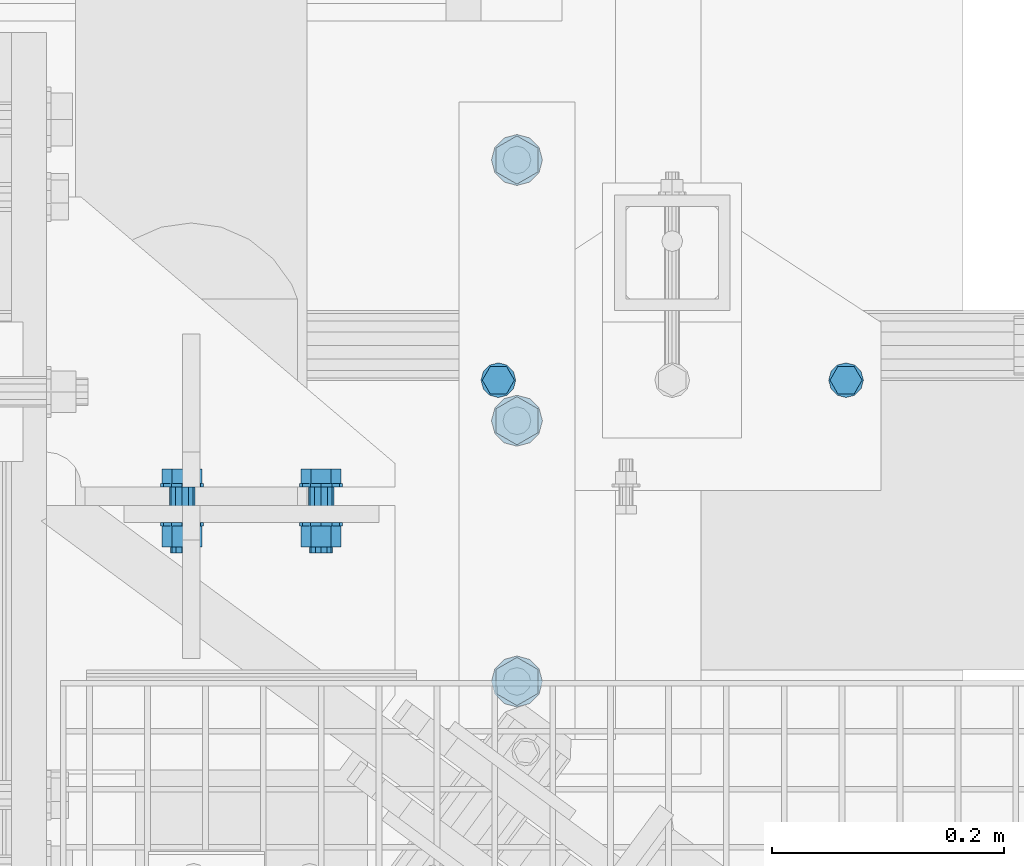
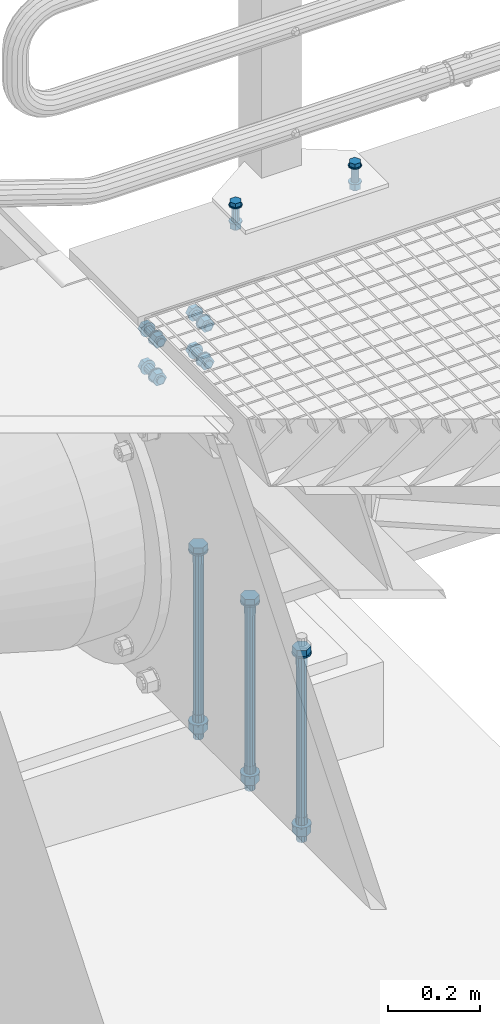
# One storey, part 35 of 1530: 3 mechanical fasteners.
"""IFC2X3 building model written with IfcOpenShell, lengths in millimetres."""

import ifcopenshell
import ifcopenshell.guid

model = None  # the IFC model being written
_history = None  # IfcOwnerHistory: only IFC2X3 demands one
_inside = {}  # id of a spatial element -> (the spatial element, [elements in it])
_under = {}  # id of a project, library or spatial element -> (it, [spatial elements below it])
_declared = {}  # id of a project -> (the project, [libraries it declares])
_typed = {}  # id of a type object -> (the type object, [elements of that type])
_made_of = {}  # id of a material, layer set ... -> (it, [elements and type objects made of it])


def new_model(schema):
    """Start an empty IFC model of exactly this schema.

    Asked for "IFC4X3", IfcOpenShell would pick the latest addendum, in which some entities
    have other attributes; the version numbers below select the first issue.
    IFC2X3 requires an IfcOwnerHistory on every rooted entity: one is made here for all.
    """
    global model, _history
    if schema == "IFC4X3":
        model = ifcopenshell.file(schema_version=(4, 3, 0, 0))
    else:
        model = ifcopenshell.file(schema=schema)
    _inside.clear()
    _under.clear()
    _declared.clear()
    _typed.clear()
    _made_of.clear()
    _history = None
    if model.schema == "IFC2X3":
        org = make("IfcOrganization", Name="unknown")
        user = make(
            "IfcPersonAndOrganization",
            ThePerson=make("IfcPerson", FamilyName="unknown"),
            TheOrganization=org,
        )
        app = make(
            "IfcApplication",
            ApplicationDeveloper=org,
            Version="unknown",
            ApplicationFullName="unknown",
            ApplicationIdentifier="unknown",
        )
        _history = make(
            "IfcOwnerHistory",
            OwningUser=user,
            OwningApplication=app,
            ChangeAction="ADDED",
            CreationDate=0,
        )
    return model


def make(cls, **values):
    """One entity of the class cls with the attributes given. An attribute that is None is left unset."""
    return model.create_entity(
        cls, **{name: value for name, value in values.items() if value is not None}
    )


def rooted(cls, **values):
    """An entity with a GlobalId (a new one), such as an element, a storey or a relation."""
    return make(cls, GlobalId=ifcopenshell.guid.new(), OwnerHistory=_history, **values)


def si_unit(unit_type, name, prefix=None):
    """IfcSIUnit, for example si_unit("LENGTHUNIT", "METRE", prefix="MILLI")."""
    return make("IfcSIUnit", UnitType=unit_type, Prefix=prefix, Name=name)


def assignment(units):
    """IfcUnitAssignment: the units of a project."""
    return None if units is None else make("IfcUnitAssignment", Units=units)


def point(xyz):
    """IfcCartesianPoint."""
    return None if xyz is None else make("IfcCartesianPoint", Coordinates=xyz)


def direction(xyz):
    """IfcDirection."""
    return None if xyz is None else make("IfcDirection", DirectionRatios=xyz)


def frame(location, z_axis=None, x_axis=None):
    """IfcAxis2Placement3D, a coordinate frame: its origin and axes. An axis left out is left unset."""
    return make(
        "IfcAxis2Placement3D",
        Location=point(location),
        Axis=direction(z_axis),
        RefDirection=direction(x_axis),
    )


def origin_with_axes():
    """The frame at (0, 0, 0) with the z axis (0, 0, 1) and the x axis (1, 0, 0) written out."""
    return frame((0.0, 0.0, 0.0), z_axis=(0.0, 0.0, 1.0), x_axis=(1.0, 0.0, 0.0))


def place(relative_to, where):
    """IfcLocalPlacement: puts the frame where relative to a parent placement (None: the world)."""
    return make(
        "IfcLocalPlacement", PlacementRelTo=relative_to, RelativePlacement=where
    )


def context(
    kind, dimensions, precision=None, world=None, true_north=None, identifier=None
):
    """IfcGeometricRepresentationContext, for example the 3D "Model" context."""
    return make(
        "IfcGeometricRepresentationContext",
        ContextIdentifier=identifier,
        ContextType=kind,
        CoordinateSpaceDimension=dimensions,
        Precision=precision,
        WorldCoordinateSystem=world,
        TrueNorth=true_north,
    )


def subcontext(parent, identifier, kind, view, scale=None):
    """IfcGeometricRepresentationSubContext, for example "Body" below "Model"."""
    return make(
        "IfcGeometricRepresentationSubContext",
        ContextIdentifier=identifier,
        ContextType=kind,
        ParentContext=parent,
        TargetScale=scale,
        TargetView=view,
    )


def project(units=None, contexts=None):
    """IfcProject with its units and contexts."""
    return rooted(
        "IfcProject",
        Name="project",
        RepresentationContexts=contexts,
        UnitsInContext=assignment(units),
    )


def spatial(cls, under=None, at=None, **own):
    """A site, building, storey or space (cls), placed at a placement, below another one or the project."""
    s = rooted(cls, ObjectPlacement=at, **own)
    if under is not None:
        _under.setdefault(under.id(), (under, []))[1].append(s)
    return s


def faces_of(points, faces, orient=None, outer=None):
    """IfcFace entities. A face is a list of loops; a loop is a list of indices into points, from 0.

    orient and outer hold one flag for each loop. By default every Orientation is true, the
    first loop of a face is its IfcFaceOuterBound and the others are IfcFaceBound.
    """
    made = []
    for i, loops in enumerate(faces):
        bounds = []
        for j, loop in enumerate(loops):
            is_outer = j == 0 if outer is None else outer[i][j]
            bounds.append(
                make(
                    "IfcFaceOuterBound" if is_outer else "IfcFaceBound",
                    Bound=make("IfcPolyLoop", Polygon=[points[k] for k in loop]),
                    Orientation=True if orient is None else orient[i][j],
                )
            )
        made.append(make("IfcFace", Bounds=bounds))
    return made


def faceted_brep(points, faces, orient=None, outer=None, voids=None):
    """IfcFacetedBrep: a solid bounded by flat faces; with voids (closed shells), ...WithVoids."""
    shared = [point(p) for p in points]
    hull = make("IfcClosedShell", CfsFaces=faces_of(shared, faces, orient, outer))
    if voids is None:
        return make("IfcFacetedBrep", Outer=hull)
    return make(
        "IfcFacetedBrepWithVoids",
        Outer=hull,
        Voids=[
            make(cls, CfsFaces=faces_of(shared, fs, o, b)) for cls, fs, o, b in voids
        ],
    )


def shape(context_of_items, identifier, shape_type, items):
    """IfcShapeRepresentation: the items that make up one representation, for example the "Body"."""
    return make(
        "IfcShapeRepresentation",
        ContextOfItems=context_of_items,
        RepresentationIdentifier=identifier,
        RepresentationType=shape_type,
        Items=items,
    )


def source(mapping_origin, context_of_items, identifier, shape_type, items):
    """IfcRepresentationMap: a shape defined once, which mapped items show again and again."""
    return make(
        "IfcRepresentationMap",
        MappingOrigin=mapping_origin,
        MappedRepresentation=shape(context_of_items, identifier, shape_type, items),
    )


def transform(
    local_origin,
    x_axis=None,
    y_axis=None,
    z_axis=None,
    scale=None,
    scale2=None,
    scale3=None,
    uniform=True,
):
    """IfcCartesianTransformationOperator3D, or its non-uniform kind. x_axis, y_axis, z_axis: its Axis1, 2, 3."""
    if uniform:
        return make(
            "IfcCartesianTransformationOperator3D",
            Axis1=direction(x_axis),
            Axis2=direction(y_axis),
            LocalOrigin=point(local_origin),
            Scale=scale,
            Axis3=direction(z_axis),
        )
    return make(
        "IfcCartesianTransformationOperator3DnonUniform",
        Axis1=direction(x_axis),
        Axis2=direction(y_axis),
        LocalOrigin=point(local_origin),
        Scale=scale,
        Axis3=direction(z_axis),
        Scale2=scale2,
        Scale3=scale3,
    )


def mapped(mapping_source, mapping_target):
    """IfcMappedItem: shows the shape of a source again, moved by a transform."""
    return make(
        "IfcMappedItem", MappingSource=mapping_source, MappingTarget=mapping_target
    )


def material(Name=None, Category=None):
    """IfcMaterial."""
    return make("IfcMaterial", Name=Name, Category=Category)


def made_of(thing, what):
    """Note that an element or type object is made of a material, layer set ...; save() writes the relation."""
    if what is not None:
        _made_of.setdefault(what.id(), (what, []))[1].append(thing)
    return thing


def type_object(cls, material=None, **own):
    """A type object (cls), such as IfcWallType, which elements share."""
    return made_of(rooted(cls, **own), material)


def element(
    cls,
    number,
    at=None,
    inside=None,
    cuts=None,
    type_object=None,
    material=None,
    context=None,
    identifier="Body",
    shape_type=None,
    held_by="IfcProductDefinitionShape",
    body=None,
    shapes=None,
    **own,
):
    """One element of the class cls, such as IfcWall. Its Tag is "e" and its number.

    at: its placement. inside: the storey or other place that contains it. cuts: it is an
    opening in that element (IfcRelVoidsElement). A single representation is given by context,
    identifier, shape_type and body (its items); several are given by shapes. held_by: the class
    of the entity that holds the representations. save() writes the other relations.
    """
    e = rooted(cls, Tag="e%d" % number, ObjectPlacement=at, **own)
    if body is not None:
        shapes = [shape(context, identifier, shape_type, body)]
    if shapes is not None:
        e.Representation = make(held_by, Representations=shapes)
    if inside is not None:
        _inside.setdefault(inside.id(), (inside, []))[1].append(e)
    if cuts is not None:
        rooted(
            "IfcRelVoidsElement", RelatingBuildingElement=cuts, RelatedOpeningElement=e
        )
    if type_object is not None:
        _typed.setdefault(type_object.id(), (type_object, []))[1].append(e)
    return made_of(e, material)


def aggregate(whole, parts):
    """IfcRelAggregates: a whole, such as a stair, and the parts it consists of."""
    return rooted("IfcRelAggregates", RelatingObject=whole, RelatedObjects=parts)


def save(model, path):
    """Write the relations noted so far, then the file.

    IfcRelAggregates (storeys below a building ...), IfcRelContainedInSpatialStructure (elements
    in a storey), IfcRelDefinesByType, IfcRelAssociatesMaterial and IfcRelDeclares: one each for
    every whole, place, type object, material and project.
    """
    for whole, parts in _under.values():
        aggregate(whole, parts)
    for where, things in _inside.values():
        rooted(
            "IfcRelContainedInSpatialStructure",
            RelatedElements=things,
            RelatingStructure=where,
        )
    for kind, things in _typed.values():
        rooted("IfcRelDefinesByType", RelatedObjects=things, RelatingType=kind)
    for what, things in _made_of.values():
        rooted("IfcRelAssociatesMaterial", RelatedObjects=things, RelatingMaterial=what)
    for by, libraries in _declared.values():
        rooted("IfcRelDeclares", RelatingContext=by, RelatedDefinitions=libraries)
    model.write(path)


model = new_model("IFC2X3")

# Units and contexts
model_context = context("Model", 3, precision=1e-05, world=origin_with_axes())
body_context = subcontext(model_context, "Body", "Model", "MODEL_VIEW")
ifc_project = project(units=[si_unit("LENGTHUNIT", "METRE", prefix="MILLI"), si_unit("AREAUNIT", "SQUARE_METRE"), si_unit("VOLUMEUNIT", "CUBIC_METRE"), si_unit("MASSUNIT", "GRAM", prefix="KILO"), si_unit("TIMEUNIT", "SECOND"), si_unit("PLANEANGLEUNIT", "RADIAN"), si_unit("SOLIDANGLEUNIT", "STERADIAN"), si_unit("THERMODYNAMICTEMPERATUREUNIT", "DEGREE_CELSIUS"), si_unit("LUMINOUSINTENSITYUNIT", "LUMEN")], contexts=[model_context])

# Site, building, storey
site_placement = place(None, origin_with_axes())
site = spatial("IfcSite", under=ifc_project, at=site_placement, Name="Brattvåg", CompositionType="ELEMENT")
building_placement = place(site_placement, origin_with_axes())
building = spatial("IfcBuilding", under=site, at=building_placement, Name="Undefined", CompositionType="ELEMENT")
storey_placement = place(building_placement, origin_with_axes())
storey = spatial("IfcBuildingStorey", under=building, at=storey_placement, Name="Undefined", CompositionType="ELEMENT", Elevation=0.0)

# Mechanical fasteners
ifc_material = material(Name="8")
mechanical_fastener_type = type_object("IfcMechanicalFastenerType", Name="Bolt assembly")
shared_shape_1 = source(origin_with_axes(), body_context, "Body", "Brep", [
    faceted_brep([(20.7846096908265, -19.0, 0.0), (10.3923048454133, -19.0, 18.0), (-10.3923048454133, -19.0, 18.0), (-20.7846096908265, -19.0, 2.54538057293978e-15), (-10.3923048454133, -19.0, -18.0), (10.3923048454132, -19.0, -18.0), (10.3923048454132, -4.0, -18.0), (-10.3923048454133, -4.0, -18.0), (-20.7846096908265, -4.0, 2.54538057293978e-15), (-10.3923048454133, -4.0, 18.0), (10.3923048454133, -4.0, 18.0), (20.7846096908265, -4.0, 0.0), (12.0, -4.0, 0.0), (10.3923048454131, -4.0, 6.00000000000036), (5.99999999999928, -4.0, 10.3923048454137), (-1.24360317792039e-12, -4.0, 12.0), (-6.00000000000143, -4.0, 10.3923048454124), (-10.3923048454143, -4.0, 5.99999999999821), (-12.0, -4.0, -2.48720635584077e-12), (-10.3923048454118, -4.0, -6.00000000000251), (-5.99999999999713, -4.0, -10.3923048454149), (3.71748685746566e-12, -4.0, -12.0), (6.00000000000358, -4.0, -10.3923048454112), (10.3923048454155, -4.0, -5.99999999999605), (10.3923048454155, 496.0, -5.99999999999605), (6.00000000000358, 496.0, -10.3923048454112), (3.71748685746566e-12, 496.0, -12.0), (-5.99999999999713, 496.0, -10.3923048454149), (-10.3923048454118, 496.0, -6.00000000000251), (-12.0, 496.0, -2.48720635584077e-12), (-10.3923048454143, 496.0, 5.99999999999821), (-6.00000000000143, 496.0, 10.3923048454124), (-1.24360317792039e-12, 496.0, 12.0), (5.99999999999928, 496.0, 10.3923048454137), (10.3923048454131, 496.0, 6.00000000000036), (12.0, 496.0, 0.0), (22.0, -4.0, 0.0), (19.0525588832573, -4.0, 11.0000000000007), (10.9999999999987, -4.0, 19.0525588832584), (-2.27993915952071e-12, -4.0, 22.0), (-11.0000000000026, -4.0, 19.0525588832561), (-19.0525588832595, -4.0, 10.9999999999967), (-22.0, -4.0, -4.55987831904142e-12), (-19.052558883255, -4.0, -11.0000000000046), (-10.9999999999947, -4.0, -19.0525588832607), (6.81539257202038e-12, -4.0, -22.0), (11.0000000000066, -4.0, -19.0525588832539), (19.0525588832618, -4.0, -10.9999999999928), (19.0525588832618, 0.0, -10.9999999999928), (11.0000000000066, 0.0, -19.0525588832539), (6.81539257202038e-12, 0.0, -22.0), (-10.9999999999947, 0.0, -19.0525588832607), (-19.052558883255, 0.0, -11.0000000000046), (-22.0, 0.0, -4.55987831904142e-12), (-19.0525588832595, 0.0, 10.9999999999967), (-11.0000000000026, 0.0, 19.0525588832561), (-2.27993915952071e-12, 0.0, 22.0), (10.9999999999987, 0.0, 19.0525588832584), (19.0525588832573, 0.0, 11.0000000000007), (22.0, 0.0, 0.0), (22.0, 450.00030517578, 0.0), (19.0525588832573, 450.00030517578, 11.0000000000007), (10.9999999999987, 450.00030517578, 19.0525588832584), (-2.27993915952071e-12, 450.00030517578, 22.0), (-11.0000000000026, 450.00030517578, 19.0525588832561), (-19.0525588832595, 450.00030517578, 10.9999999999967), (-22.0, 450.00030517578, -4.55987831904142e-12), (-19.052558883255, 450.00030517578, -11.0000000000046), (-10.9999999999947, 450.00030517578, -19.0525588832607), (6.81539257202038e-12, 450.00030517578, -22.0), (11.0000000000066, 450.00030517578, -19.0525588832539), (19.0525588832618, 450.00030517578, -10.9999999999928), (19.0525588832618, 454.00030517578, -10.9999999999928), (11.0000000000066, 454.00030517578, -19.0525588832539), (6.81539257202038e-12, 454.00030517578, -22.0), (-10.9999999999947, 454.00030517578, -19.0525588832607), (-19.052558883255, 454.00030517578, -11.0000000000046), (-22.0, 454.00030517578, -4.55987831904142e-12), (-19.0525588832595, 454.00030517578, 10.9999999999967), (-11.0000000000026, 454.00030517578, 19.0525588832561), (-2.27993915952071e-12, 454.00030517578, 22.0), (10.9999999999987, 454.00030517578, 19.0525588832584), (19.0525588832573, 454.00030517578, 11.0000000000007), (22.0, 454.00030517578, 0.0), (20.7846096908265, 454.00030517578, 0.0), (10.3923048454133, 454.00030517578, 18.0), (-10.3923048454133, 454.00030517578, 18.0), (-20.7846096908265, 454.00030517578, 2.54538057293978e-15), (-10.3923048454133, 454.00030517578, -18.0), (10.3923048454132, 454.00030517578, -18.0), (10.3923048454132, 475.50030517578, -18.0), (-10.3923048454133, 475.50030517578, -18.0), (-20.7846096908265, 475.50030517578, 2.54538057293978e-15), (-10.3923048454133, 475.50030517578, 18.0), (10.3923048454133, 475.50030517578, 18.0), (20.7846096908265, 475.50030517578, 0.0)], [[[0, 1, 2, 3, 4, 5]], [[6, 7, 8, 9, 10, 11]], [[0, 11, 10, 1]], [[1, 10, 9, 2]], [[2, 9, 8, 3]], [[3, 8, 7, 4]], [[4, 7, 6, 5]], [[5, 6, 11, 0]], [[12, 13, 14, 15, 16, 17, 18, 19, 20, 21, 22, 23]], [[24, 25, 26, 27, 28, 29, 30, 31, 32, 33, 34, 35]], [[12, 35, 34, 13]], [[13, 34, 33, 14]], [[14, 33, 32, 15]], [[15, 32, 31, 16]], [[16, 31, 30, 17]], [[17, 30, 29, 18]], [[18, 29, 28, 19]], [[19, 28, 27, 20]], [[20, 27, 26, 21]], [[21, 26, 25, 22]], [[22, 25, 24, 23]], [[23, 24, 35, 12]], [[36, 37, 38, 39, 40, 41, 42, 43, 44, 45, 46, 47]], [[48, 49, 50, 51, 52, 53, 54, 55, 56, 57, 58, 59]], [[36, 59, 58, 37]], [[37, 58, 57, 38]], [[38, 57, 56, 39]], [[39, 56, 55, 40]], [[40, 55, 54, 41]], [[41, 54, 53, 42]], [[42, 53, 52, 43]], [[43, 52, 51, 44]], [[44, 51, 50, 45]], [[45, 50, 49, 46]], [[46, 49, 48, 47]], [[47, 48, 59, 36]], [[60, 61, 62, 63, 64, 65, 66, 67, 68, 69, 70, 71]], [[72, 73, 74, 75, 76, 77, 78, 79, 80, 81, 82, 83]], [[60, 83, 82, 61]], [[61, 82, 81, 62]], [[62, 81, 80, 63]], [[63, 80, 79, 64]], [[64, 79, 78, 65]], [[65, 78, 77, 66]], [[66, 77, 76, 67]], [[67, 76, 75, 68]], [[68, 75, 74, 69]], [[69, 74, 73, 70]], [[70, 73, 72, 71]], [[71, 72, 83, 60]], [[84, 85, 86, 87, 88, 89]], [[90, 91, 92, 93, 94, 95]], [[84, 95, 94, 85]], [[85, 94, 93, 86]], [[86, 93, 92, 87]], [[87, 92, 91, 88]], [[88, 91, 90, 89]], [[89, 90, 95, 84]]]),
    faceted_brep([(13.0, 0.0999999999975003, 0.0), (11.2583302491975, 0.0999999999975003, 6.50000000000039), (6.49999999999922, 0.0999999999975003, 11.2583302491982), (-1.34723677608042e-12, 0.0999999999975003, 13.0), (-6.50000000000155, 0.0999999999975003, 11.2583302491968), (-11.2583302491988, 0.0999999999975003, 6.49999999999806), (-13.0, 0.0999999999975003, -2.69447355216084e-12), (-11.2583302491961, 0.0999999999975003, -6.50000000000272), (-6.4999999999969, 0.0999999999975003, -11.2583302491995), (4.02727742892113e-12, 0.0999999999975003, -13.0), (6.50000000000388, 0.0999999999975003, -11.2583302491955), (11.2583302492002, 0.0999999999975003, -6.49999999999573), (11.2583302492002, 30.1, -6.49999999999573), (6.50000000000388, 30.1, -11.2583302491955), (4.02727742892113e-12, 30.1, -13.0), (-6.4999999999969, 30.1, -11.2583302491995), (-11.2583302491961, 30.1, -6.50000000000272), (-13.0, 30.1, -2.69447355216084e-12), (-11.2583302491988, 30.1, 6.49999999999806), (-6.50000000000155, 30.1, 11.2583302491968), (-1.34723677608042e-12, 30.1, 13.0), (6.49999999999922, 30.1, 11.2583302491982), (11.2583302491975, 30.1, 6.50000000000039), (13.0, 30.1, 0.0), (13.0, 429.90030517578, 0.0), (11.2583302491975, 429.90030517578, 6.50000000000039), (6.49999999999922, 429.90030517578, 11.2583302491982), (-1.34723677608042e-12, 429.90030517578, 13.0), (-6.50000000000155, 429.90030517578, 11.2583302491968), (-11.2583302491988, 429.90030517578, 6.49999999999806), (-13.0, 429.90030517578, -2.69447355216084e-12), (-11.2583302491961, 429.90030517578, -6.50000000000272), (-6.4999999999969, 429.90030517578, -11.2583302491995), (4.02727742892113e-12, 429.90030517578, -13.0), (6.50000000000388, 429.90030517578, -11.2583302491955), (11.2583302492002, 429.90030517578, -6.49999999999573), (11.2583302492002, 450.00030517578, -6.49999999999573), (6.50000000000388, 450.00030517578, -11.2583302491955), (4.02727742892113e-12, 450.00030517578, -13.0), (-6.4999999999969, 450.00030517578, -11.2583302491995), (-11.2583302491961, 450.00030517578, -6.50000000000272), (-13.0, 450.00030517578, -2.69447355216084e-12), (-11.2583302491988, 450.00030517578, 6.49999999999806), (-6.50000000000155, 450.00030517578, 11.2583302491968), (-1.34723677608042e-12, 450.00030517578, 13.0), (6.49999999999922, 450.00030517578, 11.2583302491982), (11.2583302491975, 450.00030517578, 6.50000000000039), (13.0, 450.00030517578, 0.0)], [[[0, 1, 2, 3, 4, 5, 6, 7, 8, 9, 10, 11]], [[12, 13, 14, 15, 16, 17, 18, 19, 20, 21, 22, 23]], [[0, 23, 22, 1]], [[1, 22, 21, 2]], [[2, 21, 20, 3]], [[3, 20, 19, 4]], [[4, 19, 18, 5]], [[5, 18, 17, 6]], [[6, 17, 16, 7]], [[7, 16, 15, 8]], [[8, 15, 14, 9]], [[9, 14, 13, 10]], [[10, 13, 12, 11]], [[11, 12, 23, 0]], [[24, 25, 26, 27, 28, 29, 30, 31, 32, 33, 34, 35]], [[36, 37, 38, 39, 40, 41, 42, 43, 44, 45, 46, 47]], [[24, 47, 46, 25]], [[25, 46, 45, 26]], [[26, 45, 44, 27]], [[27, 44, 43, 28]], [[28, 43, 42, 29]], [[29, 42, 41, 30]], [[30, 41, 40, 31]], [[31, 40, 39, 32]], [[32, 39, 38, 33]], [[33, 38, 37, 34]], [[34, 37, 36, 35]], [[35, 36, 47, 24]]]),
])
mechanical_fastener_1_placement = place(storey_placement, frame((416.009799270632, 8839.99881744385, -1028.00001144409), z_axis=(-1.0, 1.99999855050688e-09, 0.0), x_axis=(0.0, 1.0, 0.0)))
element("IfcMechanicalFastener", 1, at=mechanical_fastener_1_placement, inside=storey, type_object=mechanical_fastener_type, material=ifc_material, Name="Bolt assembly", NominalDiameter=24.0, NominalLength=500.0, context=body_context, shape_type="MappedRepresentation", body=[
    mapped(shared_shape_1, transform((0.0, 0.0, 0.0))),
    mapped(shared_shape_1, transform((225.0, 0.0, 0.0))),
    mapped(shared_shape_1, transform((450.0, 0.0, 0.0))),
])
shared_shape_2 = source(origin_with_axes(), body_context, "Body", "Brep", [
    faceted_brep([(13.856406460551, -13.0, 0.0), (6.92820323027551, -13.0, 12.0), (-6.92820323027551, -13.0, 12.0), (-13.856406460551, -13.0, 1.69692038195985e-15), (-6.92820323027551, -13.0, -12.0), (6.9282032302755, -13.0, -12.0), (6.9282032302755, -3.0, -12.0), (-6.92820323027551, -3.0, -12.0), (-13.856406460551, -3.0, 1.69692038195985e-15), (-6.92820323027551, -3.0, 12.0), (6.92820323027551, -3.0, 12.0), (13.856406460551, -3.0, 0.0), (8.0, -3.0, 0.0), (6.92820323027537, -3.0, 4.00000000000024), (3.99999999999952, -3.0, 6.92820323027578), (-8.29068785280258e-13, -3.0, 8.0), (-4.00000000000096, -3.0, 6.92820323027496), (-6.9282032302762, -3.0, 3.99999999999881), (-8.0, -3.0, -1.65813757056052e-12), (-6.92820323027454, -3.0, -4.00000000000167), (-3.99999999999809, -3.0, -6.92820323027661), (2.47832457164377e-12, -3.0, -8.0), (4.00000000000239, -3.0, -6.92820323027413), (6.92820323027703, -3.0, -3.99999999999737), (6.92820323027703, 62.0000000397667, -3.99999999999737), (4.00000000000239, 62.0000000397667, -6.92820323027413), (2.47832457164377e-12, 62.0000000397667, -8.0), (-3.99999999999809, 62.0000000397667, -6.92820323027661), (-6.92820323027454, 62.0000000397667, -4.00000000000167), (-8.0, 62.0000000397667, -1.65813757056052e-12), (-6.9282032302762, 62.0000000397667, 3.99999999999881), (-4.00000000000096, 62.0000000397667, 6.92820323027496), (-8.29068785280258e-13, 62.0000000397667, 8.0), (3.99999999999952, 62.0000000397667, 6.92820323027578), (6.92820323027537, 62.0000000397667, 4.00000000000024), (8.0, 62.0000000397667, 0.0), (15.0, -3.0, 0.0), (12.9903810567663, -3.0, 7.50000000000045), (7.4999999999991, -3.0, 12.9903810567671), (-1.55450397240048e-12, -3.0, 15.0), (-7.50000000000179, -3.0, 12.9903810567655), (-12.9903810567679, -3.0, 7.49999999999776), (-15.0, -3.0, -3.10900794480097e-12), (-12.9903810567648, -3.0, -7.50000000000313), (-7.49999999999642, -3.0, -12.9903810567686), (4.64685857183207e-12, -3.0, -15.0), (7.50000000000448, -3.0, -12.990381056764), (12.9903810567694, -3.0, -7.49999999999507), (12.9903810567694, 0.0, -7.49999999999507), (7.50000000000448, 0.0, -12.990381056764), (0.0, 0.0, -15.0), (-7.49999999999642, 0.0, -12.9903810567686), (-12.9903810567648, 0.0, -7.50000000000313), (-15.0, 0.0, -3.10900794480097e-12), (-12.9903810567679, 0.0, 7.49999999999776), (-7.50000000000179, 0.0, 12.9903810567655), (0.0, 0.0, 15.0), (7.4999999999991, 0.0, 12.9903810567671), (12.9903810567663, 0.0, 7.50000000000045), (15.0, 0.0, 0.0), (15.0, 39.9997390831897, 0.0), (12.9903810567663, 39.9997390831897, 7.50000000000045), (7.4999999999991, 39.9997390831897, 12.9903810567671), (-1.55450397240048e-12, 39.9997390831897, 15.0), (-7.50000000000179, 39.9997390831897, 12.9903810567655), (-12.9903810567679, 39.9997390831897, 7.49999999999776), (-15.0, 39.9997390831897, -3.10900794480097e-12), (-12.9903810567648, 39.9997390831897, -7.50000000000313), (-7.49999999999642, 39.9997390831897, -12.9903810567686), (4.64685857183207e-12, 39.9997390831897, -15.0), (7.50000000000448, 39.9997390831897, -12.990381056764), (12.9903810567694, 39.9997390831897, -7.49999999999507), (12.9903810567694, 42.9997390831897, -7.49999999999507), (7.50000000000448, 42.9997390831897, -12.990381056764), (4.64685857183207e-12, 42.9997390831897, -15.0), (-7.49999999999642, 42.9997390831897, -12.9903810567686), (-12.9903810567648, 42.9997390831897, -7.50000000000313), (-15.0, 42.9997390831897, -3.10900794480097e-12), (-12.9903810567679, 42.9997390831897, 7.49999999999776), (-7.50000000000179, 42.9997390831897, 12.9903810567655), (-1.55450397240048e-12, 42.9997390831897, 15.0), (7.4999999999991, 42.9997390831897, 12.9903810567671), (12.9903810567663, 42.9997390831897, 7.50000000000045), (15.0, 42.9997390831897, 0.0), (13.856406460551, 42.9997390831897, 0.0), (6.92820323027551, 42.9997390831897, 12.0), (-6.92820323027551, 42.9997390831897, 12.0), (-13.856406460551, 42.9997390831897, 1.69692038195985e-15), (-6.92820323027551, 42.9997390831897, -12.0), (6.9282032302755, 42.9997390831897, -12.0), (6.9282032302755, 57.7997392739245, -12.0), (-6.92820323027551, 57.7997392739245, -12.0), (-13.856406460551, 57.7997392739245, 1.69692038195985e-15), (-6.92820323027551, 57.7997392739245, 12.0), (6.92820323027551, 57.7997392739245, 12.0), (13.856406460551, 57.7997392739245, 0.0)], [[[0, 1, 2, 3, 4, 5]], [[6, 7, 8, 9, 10, 11]], [[0, 11, 10, 1]], [[1, 10, 9, 2]], [[2, 9, 8, 3]], [[3, 8, 7, 4]], [[4, 7, 6, 5]], [[5, 6, 11, 0]], [[12, 13, 14, 15, 16, 17, 18, 19, 20, 21, 22, 23]], [[24, 25, 26, 27, 28, 29, 30, 31, 32, 33, 34, 35]], [[12, 35, 34, 13]], [[13, 34, 33, 14]], [[14, 33, 32, 15]], [[15, 32, 31, 16]], [[16, 31, 30, 17]], [[17, 30, 29, 18]], [[18, 29, 28, 19]], [[19, 28, 27, 20]], [[20, 27, 26, 21]], [[21, 26, 25, 22]], [[22, 25, 24, 23]], [[23, 24, 35, 12]], [[36, 37, 38, 39, 40, 41, 42, 43, 44, 45, 46, 47]], [[48, 49, 50, 51, 52, 53, 54, 55, 56, 57, 58, 59]], [[36, 59, 58, 37]], [[37, 58, 57, 38]], [[38, 57, 56, 39]], [[39, 56, 55, 40]], [[40, 55, 54, 41]], [[41, 54, 53, 42]], [[42, 53, 52, 43]], [[43, 52, 51, 44]], [[44, 51, 50, 45]], [[45, 50, 49, 46]], [[46, 49, 48, 47]], [[47, 48, 59, 36]], [[60, 61, 62, 63, 64, 65, 66, 67, 68, 69, 70, 71]], [[72, 73, 74, 75, 76, 77, 78, 79, 80, 81, 82, 83]], [[60, 83, 82, 61]], [[61, 82, 81, 62]], [[62, 81, 80, 63]], [[63, 80, 79, 64]], [[64, 79, 78, 65]], [[65, 78, 77, 66]], [[66, 77, 76, 67]], [[67, 76, 75, 68]], [[68, 75, 74, 69]], [[69, 74, 73, 70]], [[70, 73, 72, 71]], [[71, 72, 83, 60]], [[84, 85, 86, 87, 88, 89]], [[90, 91, 92, 93, 94, 95]], [[84, 95, 94, 85]], [[85, 94, 93, 86]], [[86, 93, 92, 87]], [[87, 92, 91, 88]], [[88, 91, 90, 89]], [[89, 90, 95, 84]]]),
    faceted_brep([(9.0, 0.1, 0.0), (7.79422863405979, 0.1, 4.50000000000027), (4.49999999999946, 0.1, 7.79422863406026), (-9.3270238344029e-13, 0.1, 9.0), (-4.50000000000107, 0.1, 7.79422863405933), (-7.79422863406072, 0.1, 4.49999999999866), (-9.0, 0.1, -1.86540476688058e-12), (-7.79422863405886, 0.1, -4.50000000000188), (-4.49999999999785, 0.1, -7.79422863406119), (2.78811514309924e-12, 0.1, -9.0), (4.50000000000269, 0.1, -7.7942286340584), (7.79422863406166, 0.1, -4.49999999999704), (7.79422863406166, 10.1, -4.49999999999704), (4.50000000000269, 10.1, -7.7942286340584), (2.78811514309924e-12, 10.1, -9.0), (-4.49999999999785, 10.1, -7.79422863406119), (-7.79422863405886, 10.1, -4.50000000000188), (-9.0, 10.1, -1.86540476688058e-12), (-7.79422863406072, 10.1, 4.49999999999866), (-4.50000000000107, 10.1, 7.79422863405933), (-9.3270238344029e-13, 10.1, 9.0), (4.49999999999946, 10.1, 7.79422863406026), (7.79422863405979, 10.1, 4.50000000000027), (9.0, 10.1, 0.0), (9.0, 9.8997390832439, 0.0), (7.79422863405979, 9.8997390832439, 4.50000000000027), (4.49999999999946, 9.8997390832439, 7.79422863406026), (-9.3270238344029e-13, 9.8997390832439, 9.0), (-4.50000000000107, 9.8997390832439, 7.79422863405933), (-7.79422863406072, 9.8997390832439, 4.49999999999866), (-9.0, 9.8997390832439, -1.86540476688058e-12), (-7.79422863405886, 9.8997390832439, -4.50000000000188), (-4.49999999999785, 9.8997390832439, -7.79422863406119), (2.78811514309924e-12, 9.8997390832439, -9.0), (4.50000000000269, 9.8997390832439, -7.7942286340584), (7.79422863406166, 9.8997390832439, -4.49999999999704), (7.79422863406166, 39.9997390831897, -4.49999999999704), (4.50000000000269, 39.9997390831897, -7.7942286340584), (2.78811514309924e-12, 39.9997390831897, -9.0), (-4.49999999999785, 39.9997390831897, -7.79422863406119), (-7.79422863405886, 39.9997390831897, -4.50000000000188), (-9.0, 39.9997390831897, -1.86540476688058e-12), (-7.79422863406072, 39.9997390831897, 4.49999999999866), (-4.50000000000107, 39.9997390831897, 7.79422863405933), (-9.3270238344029e-13, 39.9997390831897, 9.0), (4.49999999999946, 39.9997390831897, 7.79422863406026), (7.79422863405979, 39.9997390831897, 4.50000000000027), (9.0, 39.9997390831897, 0.0)], [[[0, 1, 2, 3, 4, 5, 6, 7, 8, 9, 10, 11]], [[12, 13, 14, 15, 16, 17, 18, 19, 20, 21, 22, 23]], [[0, 23, 22, 1]], [[1, 22, 21, 2]], [[2, 21, 20, 3]], [[3, 20, 19, 4]], [[4, 19, 18, 5]], [[5, 18, 17, 6]], [[6, 17, 16, 7]], [[7, 16, 15, 8]], [[8, 15, 14, 9]], [[9, 14, 13, 10]], [[10, 13, 12, 11]], [[11, 12, 23, 0]], [[24, 25, 26, 27, 28, 29, 30, 31, 32, 33, 34, 35]], [[36, 37, 38, 39, 40, 41, 42, 43, 44, 45, 46, 47]], [[24, 47, 46, 25]], [[25, 46, 45, 26]], [[26, 45, 44, 27]], [[27, 44, 43, 28]], [[28, 43, 42, 29]], [[29, 42, 41, 30]], [[30, 41, 40, 31]], [[31, 40, 39, 32]], [[32, 39, 38, 33]], [[33, 38, 37, 34]], [[34, 37, 36, 35]], [[35, 36, 47, 24]]]),
])
mechanical_fastener_2_placement = place(storey_placement, frame((400.000808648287, 9099.99960715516, 9.99973908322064), z_axis=(0.0, 1.0, 0.0), x_axis=(1.0, 0.0, 0.0)))
element("IfcMechanicalFastener", 2, at=mechanical_fastener_2_placement, inside=storey, type_object=mechanical_fastener_type, material=ifc_material, Name="Bolt assembly", NominalDiameter=16.0, NominalLength=65.0, context=body_context, shape_type="MappedRepresentation", body=[
    mapped(shared_shape_2, transform((0.0, 0.0, 0.0))),
    mapped(shared_shape_2, transform((300.0, 0.0, 0.0))),
])
shared_shape_3 = source(origin_with_axes(), body_context, "Body", "Brep", [
    faceted_brep([(17.3205080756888, -31.4985046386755, 0.0), (8.66025403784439, -31.4985046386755, 15.0), (-8.66025403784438, -31.4985046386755, 15.0), (-17.3205080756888, -31.4985046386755, 2.12115047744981e-15), (-8.66025403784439, -31.4985046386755, -15.0), (8.66025403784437, -31.4985046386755, -15.0), (8.66025403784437, -18.9985046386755, -15.0), (-8.66025403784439, -18.9985046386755, -15.0), (-17.3205080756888, -18.9985046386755, 2.12115047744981e-15), (-8.66025403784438, -18.9985046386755, 15.0), (8.66025403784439, -18.9985046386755, 15.0), (17.3205080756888, -18.9985046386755, 0.0), (10.0, -18.9985046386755, 0.0), (8.66025403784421, -18.9985046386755, 5.0000000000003), (4.9999999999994, -18.9985046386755, 8.66025403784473), (-1.03633598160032e-12, -18.9985046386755, 10.0), (-5.00000000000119, -18.9985046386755, 8.6602540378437), (-8.66025403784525, -18.9985046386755, 4.99999999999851), (-10.0, -18.9985046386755, -2.07267196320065e-12), (-8.66025403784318, -18.9985046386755, -5.00000000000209), (-4.99999999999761, -18.9985046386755, -8.66025403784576), (3.09790571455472e-12, -18.9985046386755, -10.0), (5.00000000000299, -18.9985046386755, -8.66025403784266), (8.66025403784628, -18.9985046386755, -4.99999999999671), (8.66025403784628, 41.0014953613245, -4.99999999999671), (5.00000000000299, 41.0014953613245, -8.66025403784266), (3.09790571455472e-12, 41.0014953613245, -10.0), (-4.99999999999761, 41.0014953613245, -8.66025403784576), (-8.66025403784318, 41.0014953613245, -5.00000000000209), (-10.0, 41.0014953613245, -2.07267196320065e-12), (-8.66025403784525, 41.0014953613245, 4.99999999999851), (-5.00000000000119, 41.0014953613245, 8.6602540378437), (-1.03633598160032e-12, 41.0014953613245, 10.0), (4.9999999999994, 41.0014953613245, 8.66025403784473), (8.66025403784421, 41.0014953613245, 5.0000000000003), (10.0, 41.0014953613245, 0.0), (18.5, -18.9985046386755, 0.0), (16.0214699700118, -18.9985046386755, 9.25000000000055), (9.2499999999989, -18.9985046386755, 16.0214699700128), (-1.9172215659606e-12, -18.9985046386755, 18.5), (-9.25000000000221, -18.9985046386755, 16.0214699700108), (-16.0214699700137, -18.9985046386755, 9.24999999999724), (-18.5, -18.9985046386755, -3.83444313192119e-12), (-16.0214699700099, -18.9985046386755, -9.25000000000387), (-9.24999999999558, -18.9985046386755, -16.0214699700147), (5.73112557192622e-12, -18.9985046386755, -18.5), (9.25000000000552, -18.9985046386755, -16.0214699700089), (16.0214699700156, -18.9985046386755, -9.24999999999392), (16.0214699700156, -15.9985046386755, -9.24999999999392), (9.25000000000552, -15.9985046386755, -16.0214699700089), (5.73112557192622e-12, -15.9985046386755, -18.5), (-9.24999999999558, -15.9985046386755, -16.0214699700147), (-16.0214699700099, -15.9985046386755, -9.25000000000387), (-18.5, -15.9985046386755, -3.83444313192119e-12), (-16.0214699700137, -15.9985046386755, 9.24999999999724), (-9.25000000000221, -15.9985046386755, 16.0214699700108), (-1.9172215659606e-12, -15.9985046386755, 18.5), (9.2499999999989, -15.9985046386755, 16.0214699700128), (16.0214699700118, -15.9985046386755, 9.25000000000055), (18.5, -15.9985046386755, 0.0), (18.5, 15.0000000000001, 0.0), (16.0214699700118, 15.0000000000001, 9.25000000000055), (9.2499999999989, 15.0000000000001, 16.0214699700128), (-1.9172215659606e-12, 15.0000000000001, 18.5), (-9.25000000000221, 15.0000000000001, 16.0214699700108), (-16.0214699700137, 15.0000000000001, 9.24999999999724), (-18.5, 15.0000000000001, -3.83444313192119e-12), (-16.0214699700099, 15.0000000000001, -9.25000000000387), (-9.24999999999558, 15.0000000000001, -16.0214699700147), (5.73112557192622e-12, 15.0000000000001, -18.5), (9.25000000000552, 15.0000000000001, -16.0214699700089), (16.0214699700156, 15.0000000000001, -9.24999999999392), (16.0214699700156, 18.0000000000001, -9.24999999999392), (9.25000000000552, 18.0000000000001, -16.0214699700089), (5.73112557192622e-12, 18.0000000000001, -18.5), (-9.24999999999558, 18.0000000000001, -16.0214699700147), (-16.0214699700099, 18.0000000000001, -9.25000000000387), (-18.5, 18.0000000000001, -3.83444313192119e-12), (-16.0214699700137, 18.0000000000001, 9.24999999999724), (-9.25000000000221, 18.0000000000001, 16.0214699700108), (-1.9172215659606e-12, 18.0000000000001, 18.5), (9.2499999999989, 18.0000000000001, 16.0214699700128), (16.0214699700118, 18.0000000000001, 9.25000000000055), (18.5, 18.0000000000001, 0.0), (17.3205080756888, 18.0000000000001, 0.0), (8.66025403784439, 18.0000000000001, 15.0), (-8.66025403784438, 18.0000000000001, 15.0), (-17.3205080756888, 18.0000000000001, 2.12115047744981e-15), (-8.66025403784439, 18.0000000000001, -15.0), (8.66025403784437, 18.0000000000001, -15.0), (8.66025403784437, 36.0000000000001, -15.0), (-8.66025403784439, 36.0000000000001, -15.0), (-17.3205080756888, 36.0000000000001, 2.12115047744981e-15), (-8.66025403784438, 36.0000000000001, 15.0), (8.66025403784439, 36.0000000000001, 15.0), (17.3205080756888, 36.0000000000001, 0.0)], [[[0, 1, 2, 3, 4, 5]], [[6, 7, 8, 9, 10, 11]], [[0, 11, 10, 1]], [[1, 10, 9, 2]], [[2, 9, 8, 3]], [[3, 8, 7, 4]], [[4, 7, 6, 5]], [[5, 6, 11, 0]], [[12, 13, 14, 15, 16, 17, 18, 19, 20, 21, 22, 23]], [[24, 25, 26, 27, 28, 29, 30, 31, 32, 33, 34, 35]], [[12, 35, 34, 13]], [[13, 34, 33, 14]], [[14, 33, 32, 15]], [[15, 32, 31, 16]], [[16, 31, 30, 17]], [[17, 30, 29, 18]], [[18, 29, 28, 19]], [[19, 28, 27, 20]], [[20, 27, 26, 21]], [[21, 26, 25, 22]], [[22, 25, 24, 23]], [[23, 24, 35, 12]], [[36, 37, 38, 39, 40, 41, 42, 43, 44, 45, 46, 47]], [[48, 49, 50, 51, 52, 53, 54, 55, 56, 57, 58, 59]], [[36, 59, 58, 37]], [[37, 58, 57, 38]], [[38, 57, 56, 39]], [[39, 56, 55, 40]], [[40, 55, 54, 41]], [[41, 54, 53, 42]], [[42, 53, 52, 43]], [[43, 52, 51, 44]], [[44, 51, 50, 45]], [[45, 50, 49, 46]], [[46, 49, 48, 47]], [[47, 48, 59, 36]], [[60, 61, 62, 63, 64, 65, 66, 67, 68, 69, 70, 71]], [[72, 73, 74, 75, 76, 77, 78, 79, 80, 81, 82, 83]], [[60, 83, 82, 61]], [[61, 82, 81, 62]], [[62, 81, 80, 63]], [[63, 80, 79, 64]], [[64, 79, 78, 65]], [[65, 78, 77, 66]], [[66, 77, 76, 67]], [[67, 76, 75, 68]], [[68, 75, 74, 69]], [[69, 74, 73, 70]], [[70, 73, 72, 71]], [[71, 72, 83, 60]], [[84, 85, 86, 87, 88, 89]], [[90, 91, 92, 93, 94, 95]], [[84, 95, 94, 85]], [[85, 94, 93, 86]], [[86, 93, 92, 87]], [[87, 92, 91, 88]], [[88, 91, 90, 89]], [[89, 90, 95, 84]]]),
    faceted_brep([(11.0, -15.8985046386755, 0.0), (9.52627944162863, -15.8985046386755, 5.50000000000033), (5.49999999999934, -15.8985046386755, 9.5262794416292), (-1.13996957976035e-12, -15.8985046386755, 11.0), (-5.50000000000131, -15.8985046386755, 9.52627944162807), (-9.52627944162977, -15.8985046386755, 5.49999999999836), (-11.0, -15.8985046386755, -2.27993915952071e-12), (-9.5262794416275, -15.8985046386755, -5.5000000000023), (-5.49999999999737, -15.8985046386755, -9.52627944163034), (3.40769628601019e-12, -15.8985046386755, -11.0), (5.50000000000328, -15.8985046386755, -9.52627944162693), (9.52627944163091, -15.8985046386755, -5.49999999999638), (9.52627944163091, 0.101495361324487, -5.49999999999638), (5.50000000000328, 0.101495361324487, -9.52627944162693), (3.40769628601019e-12, 0.101495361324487, -11.0), (-5.49999999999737, 0.101495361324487, -9.52627944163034), (-9.5262794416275, 0.101495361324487, -5.5000000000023), (-11.0, 0.101495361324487, -2.27993915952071e-12), (-9.52627944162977, 0.101495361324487, 5.49999999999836), (-5.50000000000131, 0.101495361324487, 9.52627944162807), (-1.13996957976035e-12, 0.101495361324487, 11.0), (5.49999999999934, 0.101495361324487, 9.5262794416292), (9.52627944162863, 0.101495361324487, 5.50000000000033), (11.0, 0.101495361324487, 0.0), (11.0, -0.1, 0.0), (9.52627944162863, -0.1, 5.50000000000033), (5.49999999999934, -0.1, 9.5262794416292), (-1.13996957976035e-12, -0.1, 11.0), (-5.50000000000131, -0.1, 9.52627944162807), (-9.52627944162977, -0.1, 5.49999999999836), (-11.0, -0.1, -2.27993915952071e-12), (-9.5262794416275, -0.1, -5.5000000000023), (-5.49999999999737, -0.1, -9.52627944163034), (3.40769628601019e-12, -0.1, -11.0), (5.50000000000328, -0.1, -9.52627944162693), (9.52627944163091, -0.1, -5.49999999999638), (9.52627944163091, 15.0000000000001, -5.49999999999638), (5.50000000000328, 15.0000000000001, -9.52627944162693), (3.40769628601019e-12, 15.0000000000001, -11.0), (-5.49999999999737, 15.0000000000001, -9.52627944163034), (-9.5262794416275, 15.0000000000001, -5.5000000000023), (-11.0, 15.0000000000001, -2.27993915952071e-12), (-9.52627944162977, 15.0000000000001, 5.49999999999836), (-5.50000000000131, 15.0000000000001, 9.52627944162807), (-1.13996957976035e-12, 15.0000000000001, 11.0), (5.49999999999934, 15.0000000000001, 9.5262794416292), (9.52627944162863, 15.0000000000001, 5.50000000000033), (11.0, 15.0000000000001, 0.0)], [[[0, 1, 2, 3, 4, 5, 6, 7, 8, 9, 10, 11]], [[12, 13, 14, 15, 16, 17, 18, 19, 20, 21, 22, 23]], [[0, 23, 22, 1]], [[1, 22, 21, 2]], [[2, 21, 20, 3]], [[3, 20, 19, 4]], [[4, 19, 18, 5]], [[5, 18, 17, 6]], [[6, 17, 16, 7]], [[7, 16, 15, 8]], [[8, 15, 14, 9]], [[9, 14, 13, 10]], [[10, 13, 12, 11]], [[11, 12, 23, 0]], [[24, 25, 26, 27, 28, 29, 30, 31, 32, 33, 34, 35]], [[36, 37, 38, 39, 40, 41, 42, 43, 44, 45, 46, 47]], [[24, 47, 46, 25]], [[25, 46, 45, 26]], [[26, 45, 44, 27]], [[27, 44, 43, 28]], [[28, 43, 42, 29]], [[29, 42, 41, 30]], [[30, 41, 40, 31]], [[31, 40, 39, 32]], [[32, 39, 38, 33]], [[33, 38, 37, 34]], [[34, 37, 36, 35]], [[35, 36, 47, 24]]]),
])
mechanical_fastener_3_placement = place(storey_placement, frame((247.001968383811, 8992.00149536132, -219.998836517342), z_axis=(0.0, 0.0, 1.0), x_axis=(-1.0, 1.99999855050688e-09, 0.0)))
element("IfcMechanicalFastener", 3, at=mechanical_fastener_3_placement, inside=storey, type_object=mechanical_fastener_type, material=ifc_material, Name="Bolt assembly", NominalDiameter=20.0, NominalLength=60.0, context=body_context, shape_type="MappedRepresentation", body=[
    mapped(shared_shape_3, transform((0.0, 0.0, -50.0))),
    mapped(shared_shape_3, transform((120.0, 0.0, -50.0))),
    mapped(shared_shape_3, transform((0.0, 0.0, 50.0))),
    mapped(shared_shape_3, transform((120.0, 0.0, 50.0))),
])

save(model, "model.ifc")
